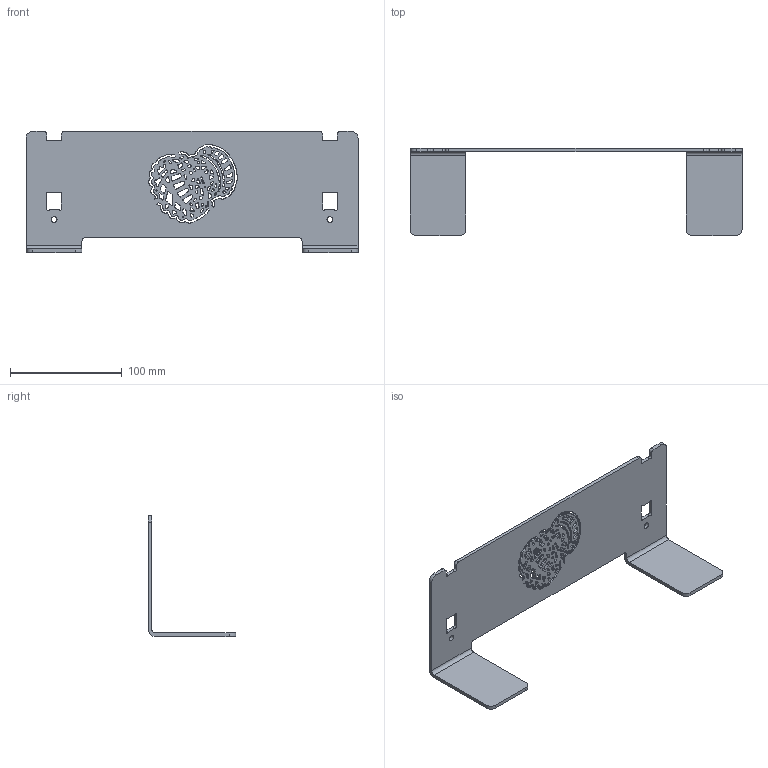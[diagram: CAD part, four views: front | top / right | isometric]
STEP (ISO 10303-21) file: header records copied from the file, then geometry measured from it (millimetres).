
FILE_DESCRIPTION(('HOOPS Exchange Step'),'2;1');
FILE_NAME('/home/e/Projects/CAD/SCS_XX/laptopStand_26/release/P1-A-00.step','2026-10-14T12:40:13-07:00',('e'),('Unknown organisation'),'HOOPS Exchange 2025.8','HOOPS Exchange','Unknown authorisation');
FILE_SCHEMA( ('AP203_CONFIGURATION_CONTROLLED_3D_DESIGN_OF_MECHANICAL_PARTS_AND_ASSEMBLIES_MIM_LF') );
Length unit declared in the file: millimetre
Products named in the file (1): root
Bounding box: 296.66 x 78.18 x 108.18 mm (x, y, z)
Volume: 110566.5 mm3; surface area: 78444 mm2
Topology: 1 solids, 1 shells, 7447 faces, 22339 edges, 14894 vertices
Faces by surface type: plane 6863, cylinder 584
Full cylindrical faces by diameter (mm): 5.25 x2
Entity records: 247254 total; most frequent: CARTESIAN_POINT 44681, ORIENTED_EDGE 44678, DIRECTION 38407, EDGE_CURVE 22339, VECTOR 21167, LINE 21167, VERTEX_POINT 14894, AXIS2_PLACEMENT_3D 8620
